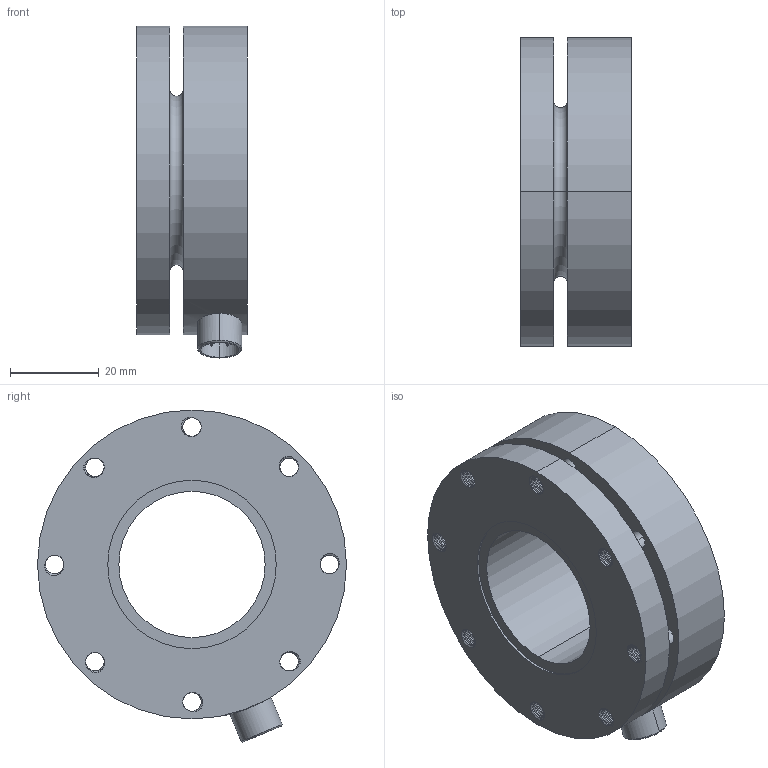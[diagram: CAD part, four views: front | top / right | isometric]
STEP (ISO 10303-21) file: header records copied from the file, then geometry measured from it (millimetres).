
FILE_DESCRIPTION((''),'2;1');
FILE_NAME('14EKB_200-3000KG_WXT','2025-03-06T11:38:12',('DELL'),(''),'CREO PARAMETRIC BY PTC INC, 2020354','CREO PARAMETRIC BY PTC INC, 2020354','');
FILE_SCHEMA(('CONFIG_CONTROL_DESIGN'));
Length unit declared in the file: millimetre
Products named in the file (1): 14EKB_200-3000KG_WXT
Bounding box: 25 x 69.7 x 74.9 mm (x, y, z)
Volume: 62073.6 mm3; surface area: 22569.4 mm2
Topology: 1 solids, 1 shells, 513 faces, 1458 edges, 958 vertices
Faces by surface type: cylinder 368, bspline 120, plane 21, torus 2, cone 2
Entity records: 42874 total; most frequent: CARTESIAN_POINT 31487, ORIENTED_EDGE 2916, EDGE_CURVE 1458, DIRECTION 1448, VERTEX_POINT 958, B_SPLINE_CURVE_WITH_KNOTS 890, EDGE_LOOP 558, FACE_OUTER_BOUND 513
